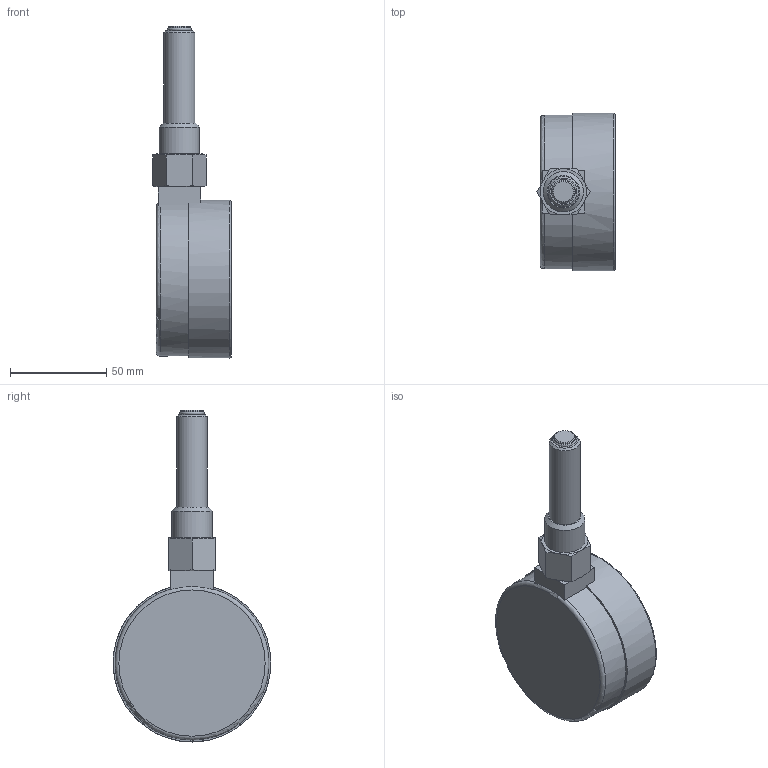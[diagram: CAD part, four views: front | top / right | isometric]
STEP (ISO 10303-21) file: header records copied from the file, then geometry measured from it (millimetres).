
FILE_DESCRIPTION(/* description */ ('ТМТБ-31Р-L64'),/* implementation_level */ '2;1');
FILE_NAME(/* name */ 'C:\STEP\ТМТБ-31Р\ТМТБ-31Р-L64.stp',/* time_stamp */ '2023-05-25T00:33:22+03:00',/* author */ ('Tech'),/* organization */ (''),/* preprocessor_version */ 'ST-DEVELOPER v18.1',/* originating_system */ 'Autodesk Inventor 2021',/* authorisation */ '');
FILE_SCHEMA (('AUTOMOTIVE_DESIGN { 1 0 10303 214 3 1 1 }'));
Length unit declared in the file: millimetre
Products named in the file (1): ТМТБ-31Р-L64
Bounding box: 40.86 x 82 x 172.5 mm (x, y, z)
Volume: 209891.9 mm3; surface area: 33657 mm2
Topology: 2 solids, 2 shells, 490 faces, 1205 edges, 805 vertices
Faces by surface type: plane 431, cylinder 21, bspline 18, cone 17, torus 3
Full cylindrical faces by diameter (mm): 0.581 x1, 0.766 x1, 8 x1, 10 x1, 11.5 x1, 14 x1, 16 x2, 17 x1, 18 x1, 20.955 x1, 73 x1, 82 x1
Entity records: 14376 total; most frequent: CARTESIAN_POINT 2797, ORIENTED_EDGE 2410, DIRECTION 2182, EDGE_CURVE 1205, LINE 1050, VECTOR 1050, VERTEX_POINT 805, EDGE_LOOP 576
